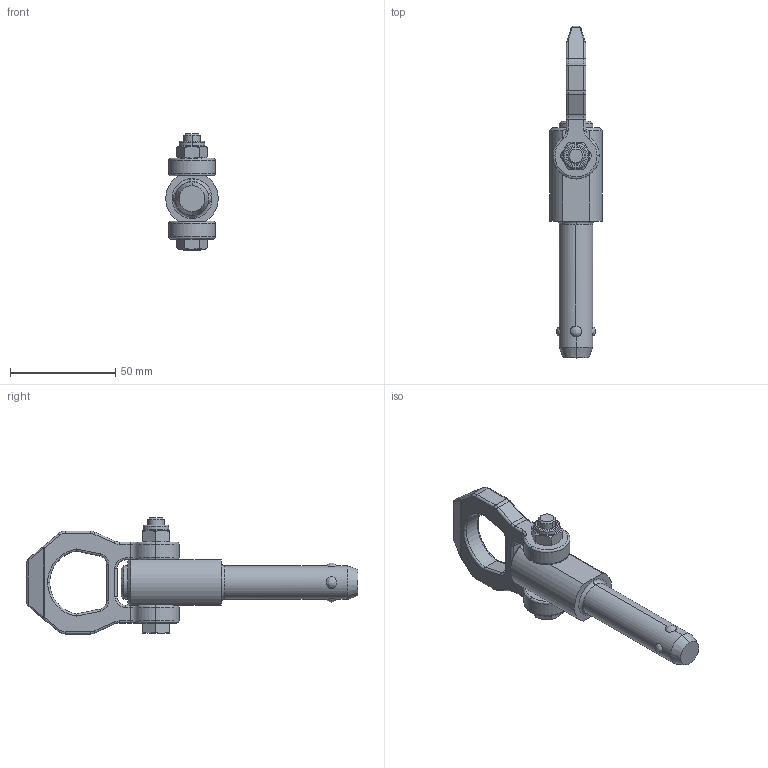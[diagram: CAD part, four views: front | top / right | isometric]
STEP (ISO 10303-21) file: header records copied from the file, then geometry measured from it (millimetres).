
FILE_DESCRIPTION (( 'STEP AP214' ), '1' );
FILE_NAME ('1130-16-50-NI.step', '2023-05-11T09:32:25', ( '' ), ( '' ), 'SwSTEP 2.0', 'SolidWorks 2022', '' );
FILE_SCHEMA (( 'AUTOMOTIVE_DESIGN' ));
Length unit declared in the file: millimetre
Products named in the file (3): 1130-16-50-NI; Kopie von bolzen2^WB1130_NI_16-50-NI; Kopie von ring2^WB1130_NI
Assembly tree (2 placements, depth 2):
  1130-16-50-NI
    Kopie von bolzen2^WB1130_NI_16-50-NI
    Kopie von ring2^WB1130_NI
Bounding box: 25 x 157.9 x 55.25 mm (x, y, z)
Volume: 54181.4 mm3; surface area: 16354.3 mm2
Topology: 2 solids, 2 shells, 265 faces, 646 edges, 396 vertices
Faces by surface type: plane 86, cylinder 77, bspline 54, cone 44, torus 4
Entity records: 10230 total; most frequent: CARTESIAN_POINT 4525, ORIENTED_EDGE 1292, DIRECTION 979, EDGE_CURVE 646, VERTEX_POINT 396, AXIS2_PLACEMENT_3D 377, EDGE_LOOP 282, FACE_OUTER_BOUND 265
